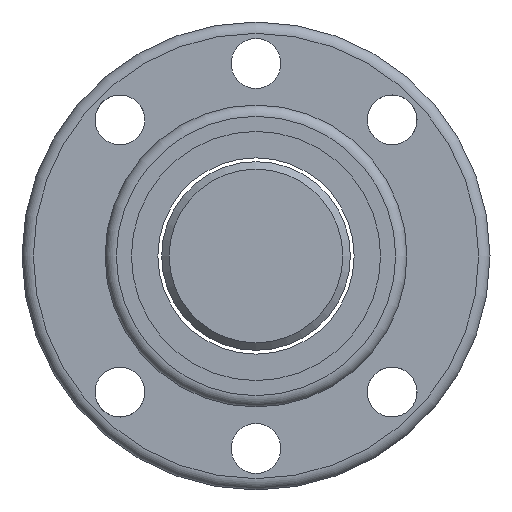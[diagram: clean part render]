
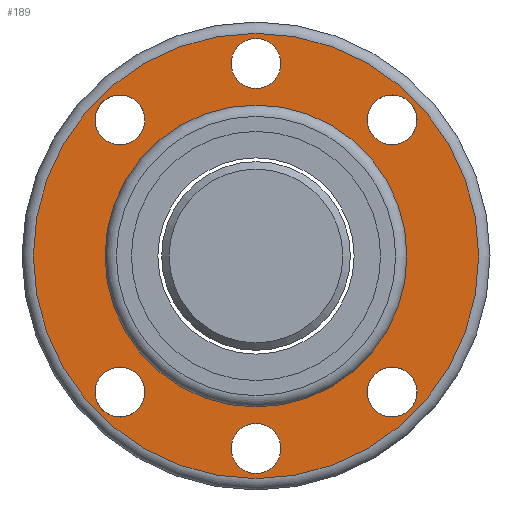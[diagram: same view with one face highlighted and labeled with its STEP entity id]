
A CAD part, left-side view. The second image highlights one B-rep face of the part: STEP entity #189.
In plain terms, the highlighted planar face has unit normal (-1, 0, 0).
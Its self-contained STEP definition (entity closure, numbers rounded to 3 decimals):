
#120=PLANE('',#700);
#137=FACE_OUTER_BOUND('',#354,.T.);
#189=ADVANCED_FACE('',(#253,#254,#255,#256,#257,#258,#259,#137),#120,.T.);
#253=FACE_BOUND('',#347,.T.);
#254=FACE_BOUND('',#348,.T.);
#255=FACE_BOUND('',#349,.T.);
#256=FACE_BOUND('',#350,.T.);
#257=FACE_BOUND('',#351,.T.);
#258=FACE_BOUND('',#352,.T.);
#259=FACE_BOUND('',#353,.T.);
#347=EDGE_LOOP('',(#445));
#348=EDGE_LOOP('',(#446));
#349=EDGE_LOOP('',(#447));
#350=EDGE_LOOP('',(#448));
#351=EDGE_LOOP('',(#449));
#352=EDGE_LOOP('',(#450));
#353=EDGE_LOOP('',(#451));
#354=EDGE_LOOP('',(#452));
#445=ORIENTED_EDGE('',*,*,#566,.F.);
#446=ORIENTED_EDGE('',*,*,#567,.F.);
#447=ORIENTED_EDGE('',*,*,#568,.F.);
#448=ORIENTED_EDGE('',*,*,#569,.F.);
#449=ORIENTED_EDGE('',*,*,#570,.F.);
#450=ORIENTED_EDGE('',*,*,#571,.F.);
#451=ORIENTED_EDGE('',*,*,#564,.T.);
#452=ORIENTED_EDGE('',*,*,#572,.F.);
#515=VERTEX_POINT('',#999);
#517=VERTEX_POINT('',#1004);
#518=VERTEX_POINT('',#1006);
#519=VERTEX_POINT('',#1008);
#520=VERTEX_POINT('',#1010);
#521=VERTEX_POINT('',#1012);
#522=VERTEX_POINT('',#1014);
#523=VERTEX_POINT('',#1016);
#564=EDGE_CURVE('',#515,#515,#613,.T.);
#566=EDGE_CURVE('',#517,#517,#615,.T.);
#567=EDGE_CURVE('',#518,#518,#616,.T.);
#568=EDGE_CURVE('',#519,#519,#617,.T.);
#569=EDGE_CURVE('',#520,#520,#618,.T.);
#570=EDGE_CURVE('',#521,#521,#619,.T.);
#571=EDGE_CURVE('',#522,#522,#620,.T.);
#572=EDGE_CURVE('',#523,#523,#621,.T.);
#613=CIRCLE('',#690,20.);
#615=CIRCLE('',#693,3.3);
#616=CIRCLE('',#694,3.3);
#617=CIRCLE('',#695,3.3);
#618=CIRCLE('',#696,3.3);
#619=CIRCLE('',#697,3.3);
#620=CIRCLE('',#698,3.3);
#621=CIRCLE('',#699,29.5);
#690=AXIS2_PLACEMENT_3D('',#998,#838,#839);
#693=AXIS2_PLACEMENT_3D('',#1003,#844,#845);
#694=AXIS2_PLACEMENT_3D('',#1005,#846,#847);
#695=AXIS2_PLACEMENT_3D('',#1007,#848,#849);
#696=AXIS2_PLACEMENT_3D('',#1009,#850,#851);
#697=AXIS2_PLACEMENT_3D('',#1011,#852,#853);
#698=AXIS2_PLACEMENT_3D('',#1013,#854,#855);
#699=AXIS2_PLACEMENT_3D('',#1015,#856,#857);
#700=AXIS2_PLACEMENT_3D('',#1017,#858,#859);
#838=DIRECTION('',(1.,0.,0.));
#839=DIRECTION('',(0.,1.,0.));
#844=DIRECTION('',(-1.,0.,0.));
#845=DIRECTION('',(0.,-1.,0.));
#846=DIRECTION('',(-1.,0.,0.));
#847=DIRECTION('',(0.,-1.,0.));
#848=DIRECTION('',(-1.,0.,0.));
#849=DIRECTION('',(0.,-1.,0.));
#850=DIRECTION('',(-1.,0.,0.));
#851=DIRECTION('',(0.,-1.,0.));
#852=DIRECTION('',(-1.,0.,0.));
#853=DIRECTION('',(0.,-1.,0.));
#854=DIRECTION('',(-1.,0.,0.));
#855=DIRECTION('',(0.,-1.,0.));
#856=DIRECTION('',(1.,0.,0.));
#857=DIRECTION('',(0.,1.,0.));
#858=DIRECTION('',(-1.,0.,0.));
#859=DIRECTION('',(0.,-1.,0.));
#998=CARTESIAN_POINT('',(-25.,0.,0.));
#999=CARTESIAN_POINT('',(-25.,20.,0.));
#1003=CARTESIAN_POINT('',(-25.,18.031,18.031));
#1004=CARTESIAN_POINT('',(-25.,14.731,18.031));
#1005=CARTESIAN_POINT('',(-25.,18.031,-18.031));
#1006=CARTESIAN_POINT('',(-25.,14.731,-18.031));
#1007=CARTESIAN_POINT('',(-25.,0.,-25.5));
#1008=CARTESIAN_POINT('',(-25.,-3.3,-25.5));
#1009=CARTESIAN_POINT('',(-25.,-18.031,-18.031));
#1010=CARTESIAN_POINT('',(-25.,-21.331,-18.031));
#1011=CARTESIAN_POINT('',(-25.,-18.031,18.031));
#1012=CARTESIAN_POINT('',(-25.,-21.331,18.031));
#1013=CARTESIAN_POINT('',(-25.,0.,25.5));
#1014=CARTESIAN_POINT('',(-25.,-3.3,25.5));
#1015=CARTESIAN_POINT('',(-25.,0.,0.));
#1016=CARTESIAN_POINT('',(-25.,29.5,0.));
#1017=CARTESIAN_POINT('',(-25.,24.75,0.));
